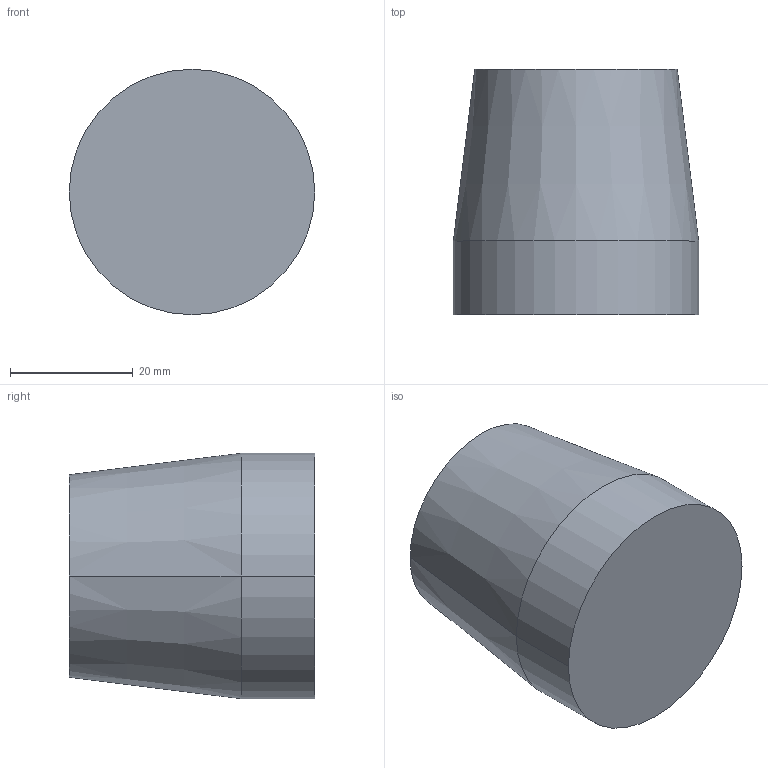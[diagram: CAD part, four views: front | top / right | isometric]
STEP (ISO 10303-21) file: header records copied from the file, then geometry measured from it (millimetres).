
FILE_DESCRIPTION (( 'STEP AP214' ), '1' );
FILE_NAME ('JB-403.step', '2023-12-26T00:49:05', ( 'catia' ), ( 'HP Inc.' ), 'SwSTEP 2.0', 'SolidWorks 2021', '' );
FILE_SCHEMA (( 'AUTOMOTIVE_DESIGN' ));
Length unit declared in the file: millimetre
Products named in the file (1): JB-403
Bounding box: 40 x 40 x 40 mm (x, y, z)
Volume: 26648.4 mm3; surface area: 9447.4 mm2
Topology: 1 solids, 1 shells, 9 faces, 16 edges, 10 vertices
Faces by surface type: cylinder 4, plane 3, cone 2
Entity records: 258 total; most frequent: DIRECTION 46, CARTESIAN_POINT 36, ORIENTED_EDGE 32, AXIS2_PLACEMENT_3D 20, EDGE_CURVE 16, EDGE_LOOP 10, VERTEX_POINT 10, CIRCLE 10
